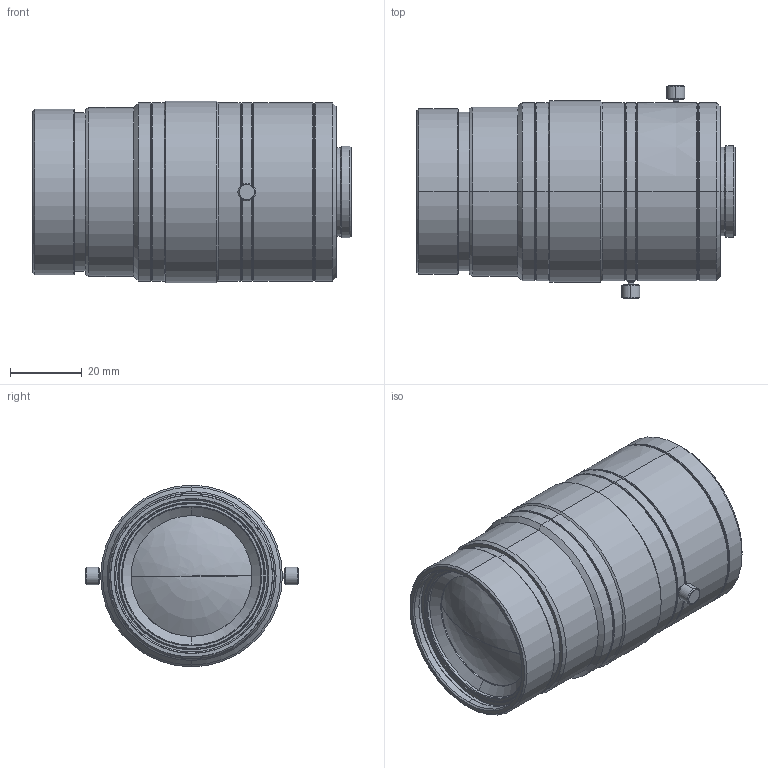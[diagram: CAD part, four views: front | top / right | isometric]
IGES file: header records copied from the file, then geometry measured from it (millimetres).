
Start section: SolidWorks IGES file using analytic representation for surfaces
Bounding box: 88.47 x 59.35 x 50.5 mm (x, y, z)
Surface area: 22946.3 mm2 (no closed solid volume)
Topology: 0 solids, 0 shells, 172 faces, 3372 edges, 3370 vertices
Faces by surface type: revolution 146, bspline 26
